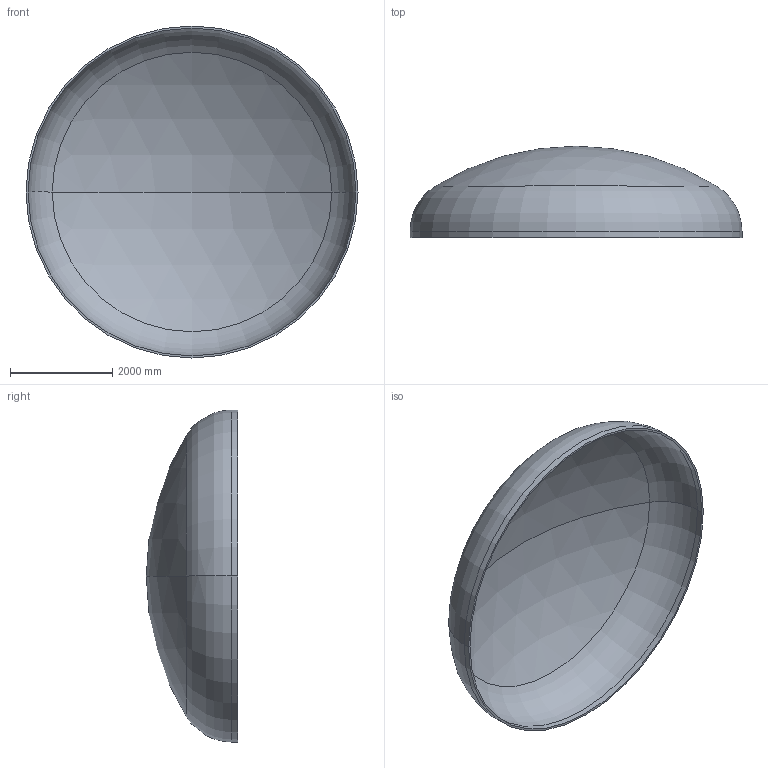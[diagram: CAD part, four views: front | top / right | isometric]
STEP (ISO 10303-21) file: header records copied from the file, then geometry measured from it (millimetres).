
FILE_DESCRIPTION (( 'STEP AP203' ), '1' );
FILE_NAME ('DIN 28013 Korbbogenform_-_Boden DIN 28013 - 6500 x 120 - I - s=40.step', '2016-07-04T10:41:47', ( '' ), ( '' ), 'SwSTEP 2.0', 'SolidWorks 2013', '' );
FILE_SCHEMA (( 'CONFIG_CONTROL_DESIGN' ));
Length unit declared in the file: millimetre
Products named in the file (1): DIN 28013 Korbbogenform_-_Boden DIN 28013 - 6500 x 120 - I - s=40
Bounding box: 6500 x 1788.46 x 6500 mm (x, y, z)
Volume: 1920524024.8 mm3; surface area: 96841302.3 mm2
Topology: 1 solids, 1 shells, 13 faces, 24 edges, 14 vertices
Faces by surface type: torus 4, cylinder 4, sphere 4, plane 1
Entity records: 407 total; most frequent: DIRECTION 72, CARTESIAN_POINT 52, ORIENTED_EDGE 48, AXIS2_PLACEMENT_3D 34, EDGE_CURVE 24, CIRCLE 20, VERTEX_POINT 14, EDGE_LOOP 14
